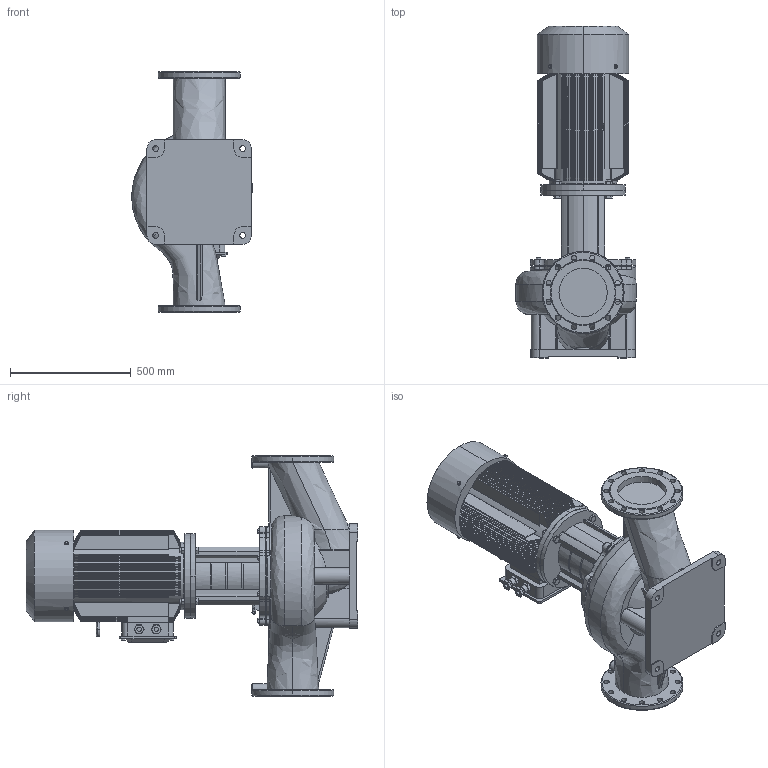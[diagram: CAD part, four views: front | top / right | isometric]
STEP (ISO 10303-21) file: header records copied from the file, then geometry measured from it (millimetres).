
FILE_DESCRIPTION(/* description */ (''),/* implementation_level */ '2;1');
FILE_NAME(/* name */ 'TD200-12.5-4安装尺寸图.stp',/* time_stamp */ '2026-09-07T16:51:30+08:00',/* author */ (''),/* organization */ (''),/* preprocessor_version */ 'ST-DEVELOPER v16.7',/* originating_system */ 'SIEMENS PLM Software NX 1847',/* authorisation */ '');
FILE_SCHEMA (('AP203_CONFIGURATION_CONTROLLED_3D_DESIGN_OF_MECHANICAL_PARTS_AND_ASSEMBLIES_MIM_LF { 1 0 10303 403 2 1 2}'));
Products named in the file (1): Admi55F8EAC4z53w
Bounding box: 498.57 x 1374 x 1000 mm (x, y, z)
Volume: 153328414.1 mm3; surface area: 6683101.3 mm2
Topology: 1 solids, 8 shells, 1515 faces, 3854 edges, 2431 vertices
Faces by surface type: plane 599, cylinder 441, cone 386, torus 50, bspline 39
Full cylindrical faces by diameter (mm): 8 x1, 10 x2, 11.701 x8, 12.9 x1, 16.63 x8, 17.623 x12, 25.34 x4, 315 x1, 330 x1
Entity records: 53654 total; most frequent: CARTESIAN_POINT 18256, ORIENTED_EDGE 7510, DIRECTION 7134, EDGE_CURVE 3755, AXIS2_PLACEMENT_3D 2880, VERTEX_POINT 2394, EDGE_LOOP 1739, ADVANCED_FACE 1515
